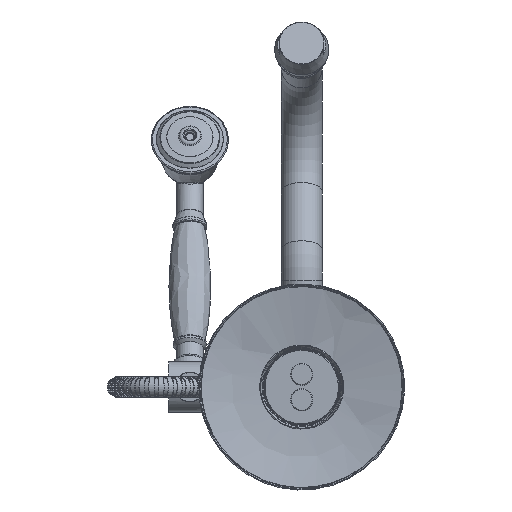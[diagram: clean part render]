
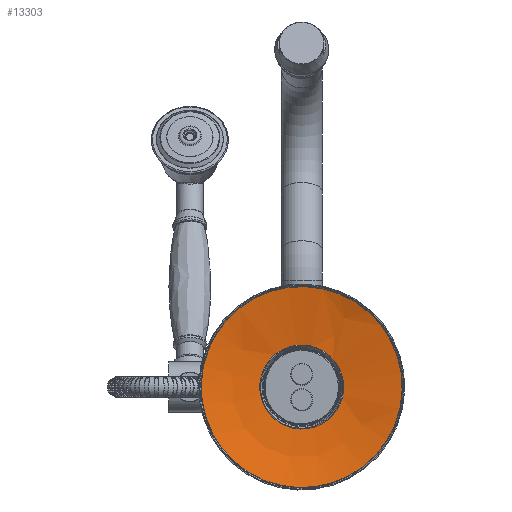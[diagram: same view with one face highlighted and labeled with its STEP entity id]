
A CAD part, front view. The second image highlights one B-rep face of the part: STEP entity #13303.
In plain terms, the highlighted free-form (B-spline) face has degree [2, 2] with [3, 9] control points.
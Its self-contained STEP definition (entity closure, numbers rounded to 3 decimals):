
#272=(
BOUNDED_CURVE()
B_SPLINE_CURVE(2,(#25588,#25589,#25590),.UNSPECIFIED.,.F.,.F.)
B_SPLINE_CURVE_WITH_KNOTS((3,3),(1.246,1.563),
 .UNSPECIFIED.)
CURVE()
GEOMETRIC_REPRESENTATION_ITEM()
RATIONAL_B_SPLINE_CURVE((1.,0.987,1.))
REPRESENTATION_ITEM('')
);
#279=(
BOUNDED_SURFACE()
B_SPLINE_SURFACE(2,2,((#25560,#25561,#25562,#25563,#25564,#25565,#25566,
#25567,#25568),(#25569,#25570,#25571,#25572,#25573,#25574,#25575,#25576,
#25577),(#25578,#25579,#25580,#25581,#25582,#25583,#25584,#25585,#25586)),
 .UNSPECIFIED.,.F.,.T.,.F.)
B_SPLINE_SURFACE_WITH_KNOTS((3,3),(3,2,2,2,3),(-1.563,-1.246),
(-3.142,-1.571,0.,1.571,3.142),
 .UNSPECIFIED.)
GEOMETRIC_REPRESENTATION_ITEM()
RATIONAL_B_SPLINE_SURFACE(((1.,0.707,1.,0.707,1.,
0.707,1.,0.707,1.),(0.987,0.698,
0.987,0.698,0.987,0.698,
0.987,0.698,0.987),(1.,0.707,
1.,0.707,1.,0.707,1.,0.707,1.)))
REPRESENTATION_ITEM('')
SURFACE()
);
#2962=FACE_OUTER_BOUND('',#4970,.T.);
#4970=EDGE_LOOP('',(#10685,#10686,#10687,#10688,#10689,#10690));
#5889=CIRCLE('',#15361,66.81);
#5890=CIRCLE('',#15362,66.81);
#5891=CIRCLE('',#15363,26.556);
#5892=CIRCLE('',#15364,26.556);
#7020=VERTEX_POINT('',#25556);
#7021=VERTEX_POINT('',#25557);
#7022=VERTEX_POINT('',#25587);
#7023=VERTEX_POINT('',#25591);
#8245=EDGE_CURVE('',#7020,#7021,#5889,.T.);
#8246=EDGE_CURVE('',#7021,#7020,#5890,.T.);
#8247=EDGE_CURVE('',#7021,#7022,#272,.T.);
#8248=EDGE_CURVE('',#7023,#7022,#5891,.T.);
#8249=EDGE_CURVE('',#7022,#7023,#5892,.T.);
#10685=ORIENTED_EDGE('',*,*,#8245,.F.);
#10686=ORIENTED_EDGE('',*,*,#8246,.F.);
#10687=ORIENTED_EDGE('',*,*,#8247,.T.);
#10688=ORIENTED_EDGE('',*,*,#8248,.F.);
#10689=ORIENTED_EDGE('',*,*,#8249,.F.);
#10690=ORIENTED_EDGE('',*,*,#8247,.F.);
#13303=ADVANCED_FACE('',(#2962),#279,.T.);
#15361=AXIS2_PLACEMENT_3D('',#25558,#19526,#19527);
#15362=AXIS2_PLACEMENT_3D('',#25559,#19528,#19529);
#15363=AXIS2_PLACEMENT_3D('',#25592,#19530,#19531);
#15364=AXIS2_PLACEMENT_3D('',#25593,#19532,#19533);
#19526=DIRECTION('center_axis',(0.,1.,0.));
#19527=DIRECTION('ref_axis',(-0.847,0.,0.532));
#19528=DIRECTION('center_axis',(0.,1.,0.));
#19529=DIRECTION('ref_axis',(-0.847,0.,0.532));
#19530=DIRECTION('center_axis',(0.,-1.,0.));
#19531=DIRECTION('ref_axis',(0.847,0.,-0.532));
#19532=DIRECTION('center_axis',(0.,-1.,0.));
#19533=DIRECTION('ref_axis',(0.847,0.,-0.532));
#25556=CARTESIAN_POINT('',(56.561,44.985,-35.56));
#25557=CARTESIAN_POINT('',(35.56,44.985,56.561));
#25558=CARTESIAN_POINT('Origin',(0.,44.985,
0.));
#25559=CARTESIAN_POINT('Origin',(0.,44.985,
0.));
#25560=CARTESIAN_POINT('Ctrl Pts',(14.134,51.739,22.482));
#25561=CARTESIAN_POINT('Ctrl Pts',(-8.347,51.739,36.616));
#25562=CARTESIAN_POINT('Ctrl Pts',(-22.482,51.739,14.134));
#25563=CARTESIAN_POINT('Ctrl Pts',(-36.616,51.739,-8.347));
#25564=CARTESIAN_POINT('Ctrl Pts',(-14.134,51.739,-22.482));
#25565=CARTESIAN_POINT('Ctrl Pts',(8.347,51.739,-36.616));
#25566=CARTESIAN_POINT('Ctrl Pts',(22.482,51.739,-14.134));
#25567=CARTESIAN_POINT('Ctrl Pts',(36.616,51.739,8.347));
#25568=CARTESIAN_POINT('Ctrl Pts',(14.134,51.739,22.482));
#25569=CARTESIAN_POINT('Ctrl Pts',(25.134,51.577,39.978));
#25570=CARTESIAN_POINT('Ctrl Pts',(-14.844,51.577,65.112));
#25571=CARTESIAN_POINT('Ctrl Pts',(-39.978,51.577,25.134));
#25572=CARTESIAN_POINT('Ctrl Pts',(-65.112,51.577,-14.844));
#25573=CARTESIAN_POINT('Ctrl Pts',(-25.134,51.577,-39.978));
#25574=CARTESIAN_POINT('Ctrl Pts',(14.844,51.577,-65.112));
#25575=CARTESIAN_POINT('Ctrl Pts',(39.978,51.577,-25.134));
#25576=CARTESIAN_POINT('Ctrl Pts',(65.112,51.577,14.844));
#25577=CARTESIAN_POINT('Ctrl Pts',(25.134,51.577,39.978));
#25578=CARTESIAN_POINT('Ctrl Pts',(35.56,44.985,56.561));
#25579=CARTESIAN_POINT('Ctrl Pts',(-21.001,44.985,92.121));
#25580=CARTESIAN_POINT('Ctrl Pts',(-56.561,44.985,35.56));
#25581=CARTESIAN_POINT('Ctrl Pts',(-92.121,44.985,-21.001));
#25582=CARTESIAN_POINT('Ctrl Pts',(-35.56,44.985,-56.561));
#25583=CARTESIAN_POINT('Ctrl Pts',(21.001,44.985,-92.121));
#25584=CARTESIAN_POINT('Ctrl Pts',(56.561,44.985,-35.56));
#25585=CARTESIAN_POINT('Ctrl Pts',(92.121,44.985,21.001));
#25586=CARTESIAN_POINT('Ctrl Pts',(35.56,44.985,56.561));
#25587=CARTESIAN_POINT('',(14.134,51.739,22.482));
#25588=CARTESIAN_POINT('Ctrl Pts',(35.56,44.985,56.561));
#25589=CARTESIAN_POINT('Ctrl Pts',(25.134,51.577,39.978));
#25590=CARTESIAN_POINT('Ctrl Pts',(14.134,51.739,22.482));
#25591=CARTESIAN_POINT('',(22.482,51.739,-14.134));
#25592=CARTESIAN_POINT('Origin',(0.,51.739,
0.));
#25593=CARTESIAN_POINT('Origin',(0.,51.739,
0.));
